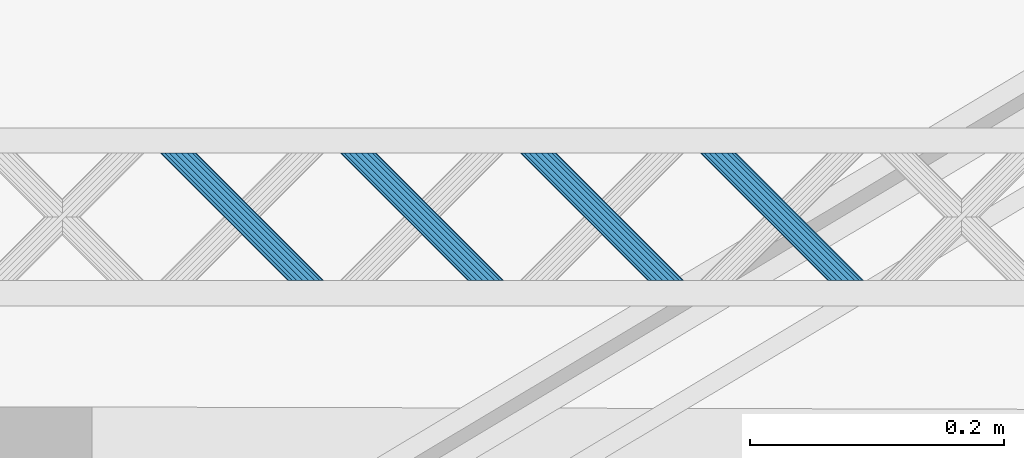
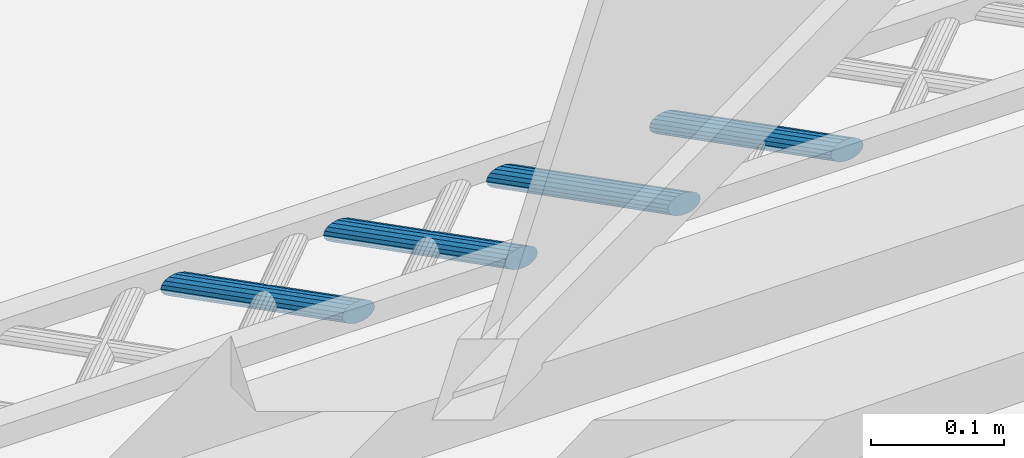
# One storey, part 63 of 133: 4 members, 1 element without a shape of its own.
"""IFC2X3 building model written with IfcOpenShell, lengths in centimetres."""

from ifc_helpers import new_model, entity, si_unit, converted_unit, direction, frame, origin, origin_with_axes, place, context, subcontext, project, spatial, faceted_brep, material, type_object, element, aggregate, save


model = new_model("IFC2X3")

# Units and contexts
model_context = context("Model", 3, precision=0.0001, world=origin(), true_north=direction((0.225632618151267, 0.974212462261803, 0.0)))
body_context = subcontext(model_context, "Body", "Model", "MODEL_VIEW")
ifc_project = project(units=[si_unit("LENGTHUNIT", "METRE", prefix="CENTI"), si_unit("AREAUNIT", "SQUARE_METRE", prefix="CENTI"), si_unit("VOLUMEUNIT", "CUBIC_METRE", prefix="CENTI"), converted_unit("PLANEANGLEUNIT", "DEGREE", entity("IfcRatioMeasure", 0.0174532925), si_unit("PLANEANGLEUNIT", "RADIAN"), dimensions=[0, 0, 0, 0, 0, 0, 0])], contexts=[model_context])

# Site, building, storey
site_placement = place(None, origin_with_axes())
site = spatial("IfcSite", under=ifc_project, at=site_placement, Name="Default Site", CompositionType="ELEMENT")
building_placement = place(site_placement, origin_with_axes())
building = spatial("IfcBuilding", under=site, at=building_placement, Name="Default Building", CompositionType="ELEMENT")
storey_placement = place(building_placement, frame((0.0, 0.0, -291.400371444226), z_axis=(0.0, 0.0, 1.0), x_axis=(1.0, 0.0, 0.0)))
storey = spatial("IfcBuildingStorey", under=building, at=storey_placement, Name="Rez-de-Jardin", CompositionType="ELEMENT", Elevation=-291.400371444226)

# Assembly, members
building_element_proxy_type = type_object("IfcBuildingElementProxyType", Name="Type Object", PredefinedType="NOTDEFINED")
assembly_placement = place(storey_placement, frame((-322.682568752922, 627.125798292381, 0.0), z_axis=(0.0, 1.0, -2.38697950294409e-15), x_axis=(1.0, 0.0, 0.0)))
assembly = element("IfcElementAssembly", 1, at=assembly_placement, inside=storey, type_object=building_element_proxy_type, Name="Panneau 92029", ObjectType="Precast panel", PredefinedType="USERDEFINED")
ifc_material = material(Name="Aluminium satiné")
member_1_placement = place(assembly_placement, frame((120.600008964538, 0.342020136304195, 1.99999995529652), z_axis=(1.16937209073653e-15, 1.43220862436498e-15, -1.0), x_axis=(-0.632448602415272, -0.774602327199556, -1.84895987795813e-15)))
member_1 = element("IfcMember", 2, at=member_1_placement, material=ifc_material, Name="4294966804", context=body_context, shape_type="Brep", body=[
    faceted_brep([(-1.11022302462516e-14, 5.55111512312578e-14, 1.40165656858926e-13), (-0.388286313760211, 5.55111512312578e-14, 1.40883582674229e-13), (-0.799164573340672, -0.150256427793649, 1.41643280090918e-13), (-1.18306811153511, -0.432635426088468, 1.42353102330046e-13), (-1.49369789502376, -0.813084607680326, 1.42927444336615e-13), (-1.69358323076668, -1.24571109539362, 1.43297024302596e-13), (-1.75861293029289, -1.67833114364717, 1.43417261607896e-13), (-1.68095640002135, -2.05878032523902, 1.43273677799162e-13), (-1.46996349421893, -2.34115037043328, 1.428835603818e-13), (-1.15109721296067, -2.49140063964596, 1.4229398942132e-13), (-0.762803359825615, -2.49139140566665, 1.41576049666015e-13), (-0.351932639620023, -2.34114421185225, 1.40816366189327e-13), (0.0319708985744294, -2.05876521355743, 1.401065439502e-13), (0.342600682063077, -1.67831603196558, 1.3953220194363e-13), (0.542486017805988, -1.24568954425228, 1.39162621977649e-13), (0.607523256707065, -0.813060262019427, 1.39042370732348e-13), (0.529859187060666, -0.432620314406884, 1.39185968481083e-13), (0.318873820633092, -0.150241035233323, 1.39576071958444e-13), (6.64335381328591, 7.5957748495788, -9.99999977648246), (6.85434671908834, 7.31340480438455, -9.99999977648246), (6.93201078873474, 6.93296485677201, -9.99999977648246), (6.86697354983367, 6.50033557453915, -9.99999977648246), (6.66708821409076, 6.06770908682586, -9.99999977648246), (6.35645843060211, 5.687259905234, -9.99999977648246), (5.97255489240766, 5.40488090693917, -9.99999977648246), (5.56168417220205, 5.25463371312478, -9.99999977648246), (5.17339031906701, 5.25462447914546, -9.99999977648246), (4.85452403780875, 5.40487474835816, -9.99999977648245), (4.64353113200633, 5.6872447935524, -9.99999977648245), (4.56587460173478, 6.06769397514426, -9.99999977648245), (4.630904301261, 6.5003140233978, -9.99999977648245), (4.83078963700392, 6.93294051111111, -9.99999977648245), (5.14141942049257, 7.31338969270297, -9.99999977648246), (5.52532295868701, 7.59576869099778, -9.99999977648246), (5.93620121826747, 7.74602511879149, -9.99999977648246), (6.32448753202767, 7.74602511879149, -9.99999977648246), (0.318873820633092, -0.150241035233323, 1.39818712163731e-13), (0.529861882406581, -0.432618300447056, 3.26468586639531e-06), (6.85434837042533, 7.31340603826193, -9.9999977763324), (6.64335754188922, 7.59577763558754, -9.99999526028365), (0.529859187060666, -0.432620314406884, 1.39471767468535e-13), (0.607521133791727, -0.813060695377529, -1.67831489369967e-06), (6.93200742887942, 6.93296417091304, -10.0000024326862), (6.85434548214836, 7.31340455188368, -10.0000007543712), (0.607523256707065, -0.813060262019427, 1.3912482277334e-13), (0.542487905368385, -1.24568982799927, 9.73995264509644e-07), (6.86697439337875, 6.50033544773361, -9.99999934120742), (6.93200974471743, 6.93296501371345, -10.0000003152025), (0.542486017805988, -1.24568954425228, 1.39471767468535e-13), (0.342600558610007, -1.67831597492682, -3.38952260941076e-08), (6.66708753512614, 6.06770940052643, -9.99999996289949), (6.86697299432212, 6.50033583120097, -9.99999992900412), (0.342600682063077, -1.67831603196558, 1.39818712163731e-13), (0.0319708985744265, -2.05876521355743, 1.40512601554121e-13), (0.0319708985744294, -2.05876521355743, 1.40512601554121e-13), (-0.351932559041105, -2.34114432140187, -3.38952261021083e-08), (5.97255533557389, 5.40488030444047, -9.99999996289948), (6.35645879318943, 5.68725941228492, -9.99999992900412), (-0.351932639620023, -2.34114421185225, 1.40859546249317e-13), (-0.762802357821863, -2.49139414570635, -1.48872510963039e-06), (5.56168553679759, 5.25462998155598, -10.0000018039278), (5.97255525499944, 5.40487991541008, -10.0000003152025), (-0.762803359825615, -2.49139140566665, 1.41900380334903e-13), (-1.15109721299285, -2.49139703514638, 2.79203354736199e-06), (5.1733903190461, 5.25462682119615, -9.99999796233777), (5.56168417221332, 5.25463245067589, -10.0000007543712), (-1.15109721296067, -2.49140063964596, 1.42594269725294e-13), (-1.46996459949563, -2.34115271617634, -2.51604859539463e-06), (4.85452237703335, 5.40487122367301, -10.0000035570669), (5.17338976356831, 5.25462330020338, -10.0000010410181), (-1.46996349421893, -2.34115037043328, 1.43288159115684e-13), (-1.68095432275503, -2.05877877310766, 2.51604888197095e-06), (4.64353216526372, 5.68724556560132, -9.99999852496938), (4.85452299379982, 5.40487396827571, -10.0000010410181), (-1.68095640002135, -2.05878032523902, 1.43288159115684e-13), (-1.75861646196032, -1.67833186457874, -2.79203326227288e-06), (4.56586983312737, 6.06769300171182, -10.0000035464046), (4.64352989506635, 5.68724454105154, -10.0000007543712), (-1.75861293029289, -1.67833114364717, 1.43982048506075e-13), (-1.69358034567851, -1.24571152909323, 1.48872540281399e-06), (4.63090614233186, 6.50031374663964, -9.99999882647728), (4.56587355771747, 6.0676941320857, -10.0000003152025), (-1.69358323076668, -1.24571109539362, 1.4363510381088e-13), (-1.4936977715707, -0.81308466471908, 3.38955068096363e-08), (4.83078920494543, 6.93294071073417, -9.99999989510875), (4.63090374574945, 6.50031428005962, -9.99999992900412), (-1.49369789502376, -0.813084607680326, 1.43288159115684e-13), (-1.18306811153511, -0.43263542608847, 1.42594269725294e-13), (5.14141942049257, 7.31338969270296, -9.99999977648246), (-1.18306811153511, -0.432635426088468, 1.42594269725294e-13), (-0.799164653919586, -0.150256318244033, 3.38955076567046e-08), (5.52532324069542, 7.59576830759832, -9.99999989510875), (5.14141978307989, 7.31338919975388, -9.99999992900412), (-0.799164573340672, -0.150256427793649, 1.42247325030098e-13), (-0.388285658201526, -1.79266470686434e-06, -9.7399498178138e-07), (5.93620223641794, 7.74602233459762, -10.0000012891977), (5.52532332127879, 7.59576769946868, -10.0000003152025), (-0.388286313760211, 5.55111512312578e-14, 1.41206490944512e-13), (-1.93558739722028e-11, 2.16669541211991e-06, 1.67831517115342e-06), (6.32448753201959, 7.74602602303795, -9.99999907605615), (5.93620121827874, 7.7460238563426, -10.0000007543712), (0.318872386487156, -0.150244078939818, -3.26468558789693e-06), (6.64335436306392, 7.59577601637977, -9.99999852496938), (6.32448697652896, 7.7460239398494, -10.0000010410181)], [[[0, 1, 2, 3, 4, 5, 6, 7, 8, 9, 10, 11, 12, 13, 14, 15, 16, 17]], [[18, 19, 20, 21, 22, 23, 24, 25, 26, 27, 28, 29, 30, 31, 32, 33, 34, 35]], [[36, 37, 38, 39]], [[40, 41, 42, 43]], [[44, 45, 46, 47]], [[48, 49, 50, 51]], [[52, 53, 23, 22]], [[54, 55, 56, 57]], [[58, 59, 60, 61]], [[62, 63, 64, 65]], [[66, 67, 68, 69]], [[70, 71, 72, 73]], [[74, 75, 76, 77]], [[78, 79, 80, 81]], [[82, 83, 84, 85]], [[86, 87, 88, 31]], [[89, 90, 91, 92]], [[93, 94, 95, 96]], [[97, 98, 99, 100]], [[0, 101, 102, 103]]]),
])
member_2_placement = place(assembly_placement, frame((106.45786523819, 0.342020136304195, 1.99999995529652), z_axis=(1.16938344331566e-15, 1.43215300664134e-15, -1.0), x_axis=(-0.632467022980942, -0.774587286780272, -1.84892397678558e-15)))
member_2 = element("IfcMember", 3, at=member_2_placement, material=ifc_material, Name="4294966803", context=body_context, shape_type="Brep", body=[
    faceted_brep([(-2.22044604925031e-14, 4.44089209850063e-14, 2.14064876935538e-13), (-0.388293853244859, 3.33066907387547e-14, 2.14782802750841e-13), (-0.79916814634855, -0.150237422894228, 2.15542478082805e-13), (-1.18307839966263, -0.432607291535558, 2.16252298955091e-13), (-1.49371723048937, -0.813049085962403, 2.16826646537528e-13), (-1.69361285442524, -1.24567082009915, 2.17196238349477e-13), (-1.75866038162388, -1.67829855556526, 2.17316506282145e-13), (-1.68100535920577, -2.05874034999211, 2.17172928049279e-13), (-1.47002670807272, -2.34112464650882, 2.16782844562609e-13), (-1.15115646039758, -2.49137326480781, 2.16193277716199e-13), (-0.762870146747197, -2.49138249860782, 2.15475365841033e-13), (-0.351988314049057, -2.34113584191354, 2.14715676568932e-13), (0.0319219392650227, -2.05876597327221, 2.14005855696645e-13), (0.34256077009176, -1.67832417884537, 2.13431508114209e-13), (0.542456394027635, -1.24570244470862, 2.1306191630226e-13), (0.607496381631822, -0.813083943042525, 2.12941662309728e-13), (0.529848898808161, -0.432632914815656, 2.13085226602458e-13), (0.318862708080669, -0.150257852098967, 2.13475324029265e-13), (6.64353444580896, 7.59561686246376, -9.99999977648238), (6.85451686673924, 7.31323718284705, -9.99999977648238), (6.93216811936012, 6.9327907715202, -9.99999977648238), (6.86712436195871, 6.5001676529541, -9.99999977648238), (6.66722873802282, 6.06754591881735, -9.99999977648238), (6.3565899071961, 5.68710412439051, -9.99999977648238), (5.97267965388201, 5.40473425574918, -9.99999977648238), (5.5618015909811, 5.25449221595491, -9.99999977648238), (5.17351150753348, 5.2544968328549, -9.99999977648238), (4.85464502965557, 5.40475006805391, -9.99999977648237), (4.6436626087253, 5.68712974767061, -9.99999977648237), (4.56601135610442, 6.06757615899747, -9.99999977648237), (4.63105511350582, 6.50019927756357, -9.99999977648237), (4.83095073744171, 6.93282101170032, -9.99999977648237), (5.14158956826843, 7.31326280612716, -9.99999977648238), (5.52549982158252, 7.59563267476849, -9.99999977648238), (5.93637788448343, 7.74587471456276, -9.99999977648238), (6.32466796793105, 7.74587009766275, -9.99999977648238), (0.318862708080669, -0.150257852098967, 2.13717932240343e-13), (0.52984682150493, -0.432634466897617, -2.5160485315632e-06), (6.85451613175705, 7.31323663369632, -10.0000006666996), (6.64353340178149, 7.59561608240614, -10.000001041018), (0.529848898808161, -0.432632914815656, 2.13370987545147e-13), (0.607499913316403, -0.813083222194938, 2.79203362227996e-06), (6.93217041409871, 6.93279123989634, -9.99999796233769), (6.85451845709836, 7.3132375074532, -9.99999851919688), (0.607496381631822, -0.813083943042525, 2.13024042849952e-13), (0.542453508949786, -1.2457020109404, -1.48872503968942e-06), (6.86712281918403, 6.50016788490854, -10.0000005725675), (6.93216707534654, 6.93279092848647, -10.0000003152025), (0.542456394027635, -1.24570244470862, 2.13024042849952e-13), (0.342560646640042, -1.67832412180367, -3.38951539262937e-08), (6.6672293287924, 6.06754564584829, -9.99999961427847), (6.86712507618, 6.50016732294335, -9.9999995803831), (0.34256077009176, -1.67832417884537, 2.13370987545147e-13), (0.0319219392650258, -2.05876597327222, 2.14064876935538e-13), (6.3565899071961, 5.6871041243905, -9.99999977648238), (6.66722873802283, 6.06754591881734, -9.99999977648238), (0.0319219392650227, -2.05876597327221, 2.14064876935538e-13), (-0.351988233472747, -2.34113595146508, -3.38951508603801e-08), (5.97267926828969, 5.4047347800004, -9.99999961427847), (6.35658944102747, 5.68710475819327, -9.9999995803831), (-0.351988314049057, -2.34113584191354, 2.14758766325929e-13), (-0.762870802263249, -2.49138070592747, 9.73995336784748e-07), (5.56180129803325, 5.25449301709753, -9.99999934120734), (5.97267918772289, 5.40473553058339, -9.99999908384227), (-0.762870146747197, -2.49138249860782, 2.15452655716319e-13), (-1.15115646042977, -2.49137543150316, -1.6783148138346e-06), (5.17351150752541, 5.25449628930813, -10.0000001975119), (5.56180159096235, 5.25449095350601, -10.0000007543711), (-1.15115646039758, -2.49137326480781, 2.16493489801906e-13), (-1.4700252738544, -2.34112160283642, 3.26468595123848e-06), (4.85464590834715, 5.40475193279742, -9.99999777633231), (5.17351222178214, 5.25449834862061, -9.9999981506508), (-1.47002670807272, -2.34112464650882, 2.16840434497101e-13), (-1.68100805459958, -2.05874236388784, -3.26468551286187e-06), (4.64366125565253, 5.6871287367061, -10.0000014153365), (4.85464398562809, 5.40474928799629, -10.000001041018), (-1.68100535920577, -2.05874034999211, 2.17187379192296e-13), (-1.75865825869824, -1.67829812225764, 1.67831524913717e-06), (4.56601224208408, 6.06757633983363, -9.99999907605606), (4.64366419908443, 5.68713007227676, -9.99999851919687), (-1.75866038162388, -1.67829855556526, 2.17534323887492e-13), (-1.69361474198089, -1.24567053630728, -9.7399490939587e-07), (4.63105456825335, 6.50019935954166, -10.0000000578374), (4.56601031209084, 6.06757631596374, -10.0000003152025), (-1.69361285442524, -1.24567082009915, 2.17534323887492e-13), (-1.49371710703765, -0.8130491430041, 3.38955841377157e-08), (4.83095157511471, 6.93282062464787, -9.99999954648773), (4.63105582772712, 6.50019894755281, -9.99999958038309), (-1.49371723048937, -0.813049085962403, 2.16840434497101e-13), (-1.18307839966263, -0.432607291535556, 2.1614654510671e-13), (5.14158956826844, 7.31326280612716, -9.99999977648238), (-1.18307839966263, -0.432607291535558, 2.1614654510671e-13), (-0.79916822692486, -0.150237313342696, 3.38955813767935e-08), (5.52549927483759, 7.59563341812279, -9.99999954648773), (5.14158910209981, 7.31326343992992, -9.9999995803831), (-0.79916814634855, -0.150237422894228, 2.15799600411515e-13), (-0.388294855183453, 2.74006356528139e-06, 1.48872547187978e-06), (5.93637724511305, 7.74587646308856, -9.99999882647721), (5.52549935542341, 7.59563394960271, -9.99999908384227), (-0.388293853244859, 3.33066907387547e-14, 2.15105711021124e-13), (-5.35586373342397e-11, -3.60449954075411e-06, -2.79203319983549e-06), (6.32466796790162, 7.74586811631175, -10.0000013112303), (5.93637788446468, 7.74587345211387, -10.0000007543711), (0.318863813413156, -0.150255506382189, 2.51604895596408e-06), (6.64353499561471, 7.59561802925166, -9.99999852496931), (6.32466868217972, 7.74587161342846, -9.99999815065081)], [[[0, 1, 2, 3, 4, 5, 6, 7, 8, 9, 10, 11, 12, 13, 14, 15, 16, 17]], [[18, 19, 20, 21, 22, 23, 24, 25, 26, 27, 28, 29, 30, 31, 32, 33, 34, 35]], [[36, 37, 38, 39]], [[40, 41, 42, 43]], [[44, 45, 46, 47]], [[48, 49, 50, 51]], [[52, 53, 54, 55]], [[56, 57, 58, 59]], [[60, 61, 62, 63]], [[64, 65, 66, 67]], [[68, 69, 70, 71]], [[72, 73, 74, 75]], [[76, 77, 78, 79]], [[80, 81, 82, 83]], [[84, 85, 86, 87]], [[88, 89, 90, 31]], [[91, 92, 93, 94]], [[95, 96, 97, 98]], [[99, 100, 101, 102]], [[0, 103, 104, 105]]]),
])
member_3_placement = place(assembly_placement, frame((92.3157334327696, 0.342020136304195, 1.99999995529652), z_axis=(1.16937776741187e-15, 1.43218081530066e-15, -1.0), x_axis=(-0.632457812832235, -0.774594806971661, -1.84894192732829e-15)))
member_3 = element("IfcMember", 4, at=member_3_placement, material=ifc_material, Name="4294966802", context=body_context, shape_type="Brep", body=[
    faceted_brep([(-3.33066907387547e-14, 6.66133814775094e-14, 1.07205910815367e-13), (-0.388290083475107, 7.7715611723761e-14, 1.0792383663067e-13), (-0.799166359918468, -0.150246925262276, 1.0868352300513e-13), (-1.18307325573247, -0.432621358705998, 1.09393344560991e-13), (-1.49370756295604, -0.813066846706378, 1.09967689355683e-13), (-1.6935980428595, -1.24569095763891, 1.10337275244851e-13), (-1.75863665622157, -1.67831484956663, 1.10457527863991e-13), (-1.68098087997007, -2.05876033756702, 1.1031394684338e-13), (-1.46999510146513, -2.34113750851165, 1.09923846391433e-13), (-1.15112683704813, -2.49138695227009, 1.09334277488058e-13), (-0.76283675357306, -2.4913869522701, 1.08616351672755e-13), (-0.351960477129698, -2.34114002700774, 1.07856665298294e-13), (0.0319464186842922, -2.05876559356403, 1.07146843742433e-13), (0.342580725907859, -1.67832010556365, 1.06572498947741e-13), (0.542471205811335, -1.2456959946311, 1.06202913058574e-13), (0.607509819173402, -0.813072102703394, 1.06082660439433e-13), (0.529854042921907, -0.432626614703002, 1.06226241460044e-13), (0.318868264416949, -0.150249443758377, 1.06616341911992e-13), (6.64344413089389, 7.59569585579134, -9.99999977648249), (6.85442990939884, 7.31331868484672, -9.99999977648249), (6.93208945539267, 6.93287781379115, -9.99999977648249), (6.86704707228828, 6.5002493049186, -9.99999977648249), (6.6671565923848, 6.06762519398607, -9.99999977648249), (6.35652605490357, 5.68718432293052, -9.99999977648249), (5.97261915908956, 5.40480988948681, -9.99999977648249), (5.5617428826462, 5.25456296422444, -9.99999977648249), (5.17345279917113, 5.25456296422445, -9.99999977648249), (4.85458453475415, 5.4048124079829, -9.99999977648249), (4.64359875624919, 5.68718957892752, -9.99999977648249), (4.5659429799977, 6.06763506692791, -9.99999977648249), (4.63098159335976, 6.50025895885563, -9.99999977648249), (4.83087207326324, 6.93288306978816, -9.99999977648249), (5.14150261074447, 7.31332394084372, -9.99999977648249), (5.52540950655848, 7.59569837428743, -9.99999977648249), (5.93628955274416, 7.74594991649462, -9.99999977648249), (6.3245758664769, 7.74594529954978, -9.99999977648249), (0.318868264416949, -0.150249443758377, 1.06858966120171e-13), (0.52985435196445, -0.432626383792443, 3.74318597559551e-07), (6.8544315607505, 7.31331991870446, -9.99999777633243), (6.64344547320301, 7.59569685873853, -9.99999815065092), (0.529854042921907, -0.432626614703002, 1.06512021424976e-13), (0.607510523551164, -0.813071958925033, 5.56859296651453e-07), (6.93208892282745, 6.93287770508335, -10.000000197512), (6.85443149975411, 7.31331900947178, -9.99999851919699), (0.607509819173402, -0.813072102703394, 1.06165076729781e-13), (0.542470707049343, -1.24569591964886, -2.57364957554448e-07), (6.86704791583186, 6.50024917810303, -9.99999934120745), (6.93208841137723, 6.932877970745, -10.0000003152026), (0.542471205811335, -1.2456959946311, 1.06165076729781e-13), (0.342580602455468, -1.67832004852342, -3.38952590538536e-08), (6.66715718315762, 6.06762492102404, -9.99999961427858), (6.86704778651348, 6.50024897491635, -9.99999958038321), (0.342580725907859, -1.67832010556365, 1.06858966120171e-13), (0.0319464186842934, -2.05876559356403, 1.07205910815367e-13), (6.35652605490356, 5.68718432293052, -9.99999977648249), (6.6671565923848, 6.06762519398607, -9.99999977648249), (0.0319464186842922, -2.05876559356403, 1.07205910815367e-13), (-0.351960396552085, -2.34114013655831, -3.38952580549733e-08), (5.97261960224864, 5.40480928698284, -9.99999996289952), (6.35652641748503, 5.68718382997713, -9.99999992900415), (-0.351960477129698, -2.34114002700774, 1.07899800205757e-13), (-0.762836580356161, -2.49138742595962, -2.57364951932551e-07), (5.5617434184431, 5.25456149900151, -10.0000005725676), (5.97261952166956, 5.40480889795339, -10.0000003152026), (-0.76283675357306, -2.4913869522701, 1.08593689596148e-13), (-1.151126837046, -2.49138623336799, 5.56859292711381e-07), (5.17345279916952, 5.25456242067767, -10.000000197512), (5.56174288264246, 5.25456170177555, -10.0000007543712), (-1.15112683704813, -2.49138695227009, 1.09634523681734e-13), (-1.46999493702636, -2.34113715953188, 3.74318606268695e-07), (4.85458414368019, 5.40481157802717, -10.0000006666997), (5.17345224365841, 5.25456178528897, -10.0000010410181), (-1.46999510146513, -2.34113750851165, 1.0998146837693e-13), (-1.68098118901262, -2.05876056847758, -3.74318384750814e-07), (4.64359740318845, 5.68718856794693, -10.0000014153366), (4.85458349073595, 5.40481162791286, -10.0000010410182), (-1.68098087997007, -2.05876033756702, 1.10328413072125e-13), (-1.75863736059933, -1.67831499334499, -5.56859079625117e-07), (4.56594103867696, 6.06763467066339, -10.0000013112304), (4.64359751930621, 5.68718932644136, -10.0000007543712), (-1.75863665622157, -1.67831484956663, 1.1067535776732e-13), (-1.69359754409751, -1.24569103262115, 2.57365175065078e-07), (4.63098104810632, 6.50025904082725, -10.0000000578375), (4.56594193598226, 6.06763522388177, -10.0000003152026), (-1.6935980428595, -1.24569095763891, 1.1067535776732e-13), (-1.49370743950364, -0.813066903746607, 3.38954771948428e-08), (4.83087164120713, 6.93288326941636, -9.99999989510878), (4.63098103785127, 6.50025921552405, -9.99999992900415), (-1.49370756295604, -0.813066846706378, 1.0998146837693e-13), (-1.18307325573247, -0.432621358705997, 1.09634523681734e-13), (4.83087207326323, 6.93288306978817, -9.99999977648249), (-1.18307325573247, -0.432621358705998, 1.09634523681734e-13), (-0.799166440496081, -0.150246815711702, 3.3895474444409e-08), (5.52540895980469, 7.59569911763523, -9.99999954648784), (5.14150214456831, 7.31332457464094, -9.99999958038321), (-0.799166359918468, -0.150246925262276, 1.08940634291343e-13), (-0.388290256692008, 4.73689604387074e-07, 2.57365173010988e-07), (5.93628974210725, 7.74594939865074, -10.0000000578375), (5.5254090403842, 7.59569964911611, -9.99999908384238), (-0.388290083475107, 7.7715611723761e-14, 1.08246744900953e-13), (-2.16293201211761e-12, -7.18902037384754e-07, -5.56859076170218e-07), (6.32457586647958, 7.74594620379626, -9.99999907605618), (5.93628955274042, 7.74594865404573, -10.0000007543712), (0.318868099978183, -0.150249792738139, -3.74318387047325e-07), (6.64344468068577, 7.59569702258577, -9.99999852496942), (6.32457658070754, 7.74594681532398, -9.99999815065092)], [[[0, 1, 2, 3, 4, 5, 6, 7, 8, 9, 10, 11, 12, 13, 14, 15, 16, 17]], [[18, 19, 20, 21, 22, 23, 24, 25, 26, 27, 28, 29, 30, 31, 32, 33, 34, 35]], [[36, 37, 38, 39]], [[40, 41, 42, 43]], [[44, 45, 46, 47]], [[48, 49, 50, 51]], [[52, 53, 54, 55]], [[56, 57, 58, 59]], [[60, 61, 62, 63]], [[64, 65, 66, 67]], [[68, 69, 70, 71]], [[72, 73, 74, 75]], [[76, 77, 78, 79]], [[80, 81, 82, 83]], [[84, 85, 86, 87]], [[88, 89, 32, 90]], [[91, 92, 93, 94]], [[95, 96, 97, 98]], [[99, 100, 101, 102]], [[0, 103, 104, 105]]]),
])
member_4_placement = place(assembly_placement, frame((78.1736016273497, 0.342020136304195, 1.99999995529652), z_axis=(1.16937209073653e-15, 1.43220862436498e-15, -1.0), x_axis=(-0.632448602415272, -0.774602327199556, -1.84895987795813e-15)))
member_4 = element("IfcMember", 5, at=member_4_placement, material=ifc_material, Name="4294966801", context=body_context, shape_type="Brep", body=[
    faceted_brep([(-1.66533453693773e-14, 5.55111512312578e-14, 9.05525654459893e-14), (-0.3882863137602, 5.55111512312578e-14, 9.12704912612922e-14), (-0.79916457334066, -0.150256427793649, 9.20301886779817e-14), (-1.1830681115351, -0.432635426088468, 9.27400109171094e-14), (-1.49369412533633, -0.813079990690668, 9.33143459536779e-14), (-1.69357946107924, -1.24570647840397, 9.36839259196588e-14), (-1.75861293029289, -1.67833114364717, 9.38041701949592e-14), (-1.68095263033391, -2.05877570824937, 9.36605794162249e-14), (-1.46996349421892, -2.34115037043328, 9.32704689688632e-14), (-1.15109344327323, -2.49139602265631, 9.26808910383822e-14), (-0.762803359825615, -2.49139140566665, 9.19629582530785e-14), (-0.351928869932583, -2.34113959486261, 9.12032678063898e-14), (0.0319746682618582, -2.05876059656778, 9.04934455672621e-14), (0.342600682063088, -1.67831603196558, 8.99191105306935e-14), (0.542486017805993, -1.24568954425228, 8.95495305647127e-14), (0.607523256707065, -0.813060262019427, 8.94292793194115e-14), (0.529859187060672, -0.432620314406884, 8.95728770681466e-14), (0.318870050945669, -0.15024565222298, 8.99629875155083e-14), (6.64335758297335, 7.59577946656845, -9.99999977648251), (6.85434671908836, 7.31340480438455, -9.99999977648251), (6.93200701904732, 6.93296023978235, -9.99999977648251), (6.86697354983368, 6.50033557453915, -9.99999977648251), (6.66708821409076, 6.06770908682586, -9.99999977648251), (6.35645843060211, 5.687259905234, -9.99999977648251), (5.97255489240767, 5.40488090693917, -9.99999977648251), (5.56168040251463, 5.25462909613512, -9.99999977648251), (5.17339031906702, 5.25462447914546, -9.99999977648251), (4.85452403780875, 5.40487474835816, -9.9999997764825), (4.64353113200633, 5.6872447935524, -9.9999997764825), (4.56587083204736, 6.0676893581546, -9.9999997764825), (4.63090430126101, 6.5003140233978, -9.9999997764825), (4.83078963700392, 6.93294051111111, -9.9999997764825), (5.14141942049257, 7.31338969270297, -9.99999977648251), (5.52532295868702, 7.59576869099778, -9.99999977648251), (5.93619744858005, 7.74602050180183, -9.99999977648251), (6.32448753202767, 7.74602511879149, -9.99999977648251), (0.318870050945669, -0.15024565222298, 9.0205620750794e-14), (0.529859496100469, -0.43262008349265, 3.74318580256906e-07), (6.85434598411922, 7.31340425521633, -10.0000006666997), (6.64335653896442, 7.595778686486, -10.0000010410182), (0.529859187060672, -0.432620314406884, 8.98586760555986e-14), (0.60752113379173, -0.813060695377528, -1.67831494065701e-06), (6.93200648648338, 6.93296013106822, -10.000000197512), (6.85434548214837, 7.31340455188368, -10.0000007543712), (0.607523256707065, -0.813060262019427, 8.95117313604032e-14), (0.542487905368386, -1.24568982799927, 9.73995212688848e-07), (6.86697439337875, 6.50033544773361, -9.99999934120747), (6.93200836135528, 6.93296003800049, -9.9999990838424), (0.542486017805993, -1.24568954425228, 8.98586760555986e-14), (0.342600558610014, -1.67831597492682, -3.38952768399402e-08), (6.66708753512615, 6.06770940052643, -9.99999996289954), (6.86697299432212, 6.50033583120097, -9.99999992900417), (0.342600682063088, -1.67831603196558, 9.0205620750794e-14), (0.0319746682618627, -2.05876059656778, 9.08995101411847e-14), (6.66708821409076, 6.06770908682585, -9.99999977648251), (0.0319746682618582, -2.05876059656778, 9.08995101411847e-14), (-0.351928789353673, -2.34113970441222, -3.3895272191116e-08), (5.97255450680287, 5.40488143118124, -9.99999961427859), (6.3564579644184, 5.68726053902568, -9.99999958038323), (-0.351928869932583, -2.34113959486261, 9.12464548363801e-14), (-0.762803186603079, -2.49139187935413, -2.57364974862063e-07), (5.56168010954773, 5.25462989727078, -9.99999934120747), (5.97255442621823, 5.4048821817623, -9.9999990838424), (-0.762803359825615, -2.49139140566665, 9.22872889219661e-14), (-1.15109344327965, -2.4913953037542, 5.56859282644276e-07), (5.17339031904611, 5.25462682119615, -9.99999796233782), (5.56168040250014, 5.2546307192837, -9.99999851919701), (-1.15109344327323, -2.49139602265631, 9.29811783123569e-14), (-1.4699633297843, -2.34115002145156, 3.74318587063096e-07), (4.85452364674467, 5.40487391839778, -10.0000006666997), (5.17339103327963, 5.25462599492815, -9.99999815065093), (-1.46996349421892, -2.34115037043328, 9.36750677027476e-14), (-1.68095293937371, -2.05877593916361, -3.7431840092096e-07), (4.64353216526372, 5.68724556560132, -9.99999852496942), (4.85452299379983, 5.40487396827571, -10.0000010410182), (-1.68095263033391, -2.05877570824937, 9.36750677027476e-14), (-1.75861363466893, -1.67833128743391, -5.56859087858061e-07), (4.56587171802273, 6.06768953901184, -9.99999907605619), (4.64353272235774, 5.68724511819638, -9.999998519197), (-1.75861293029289, -1.67833114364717, 9.43689570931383e-14), (-1.69357896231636, -1.24570655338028, 2.57365158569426e-07), (4.63090614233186, 6.50031374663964, -9.99999882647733), (4.56587217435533, 6.06768915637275, -9.9999990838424), (-1.69357946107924, -1.24570647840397, 9.40220123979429e-14), (-1.49369400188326, -0.813080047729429, 3.38954605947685e-08), (4.83079047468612, 6.93294012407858, -9.99999954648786), (4.63090501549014, 6.50031369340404, -9.99999958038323), (-1.49369412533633, -0.813079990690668, 9.36750677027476e-14), (-1.18306811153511, -0.432635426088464, 9.29811783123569e-14), (-1.1830681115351, -0.432635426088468, 9.29811783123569e-14), (-0.799164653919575, -0.150256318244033, 3.38954580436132e-08), (5.52532324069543, 7.59576830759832, -9.9999998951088), (5.1414197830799, 7.31338919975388, -9.99999992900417), (-0.79916457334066, -0.150256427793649, 9.26342336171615e-14), (-0.388285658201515, -1.79266470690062e-06, -9.73995031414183e-07), (5.9361976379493, 7.7460199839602, -10.0000000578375), (5.5253233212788, 7.59576769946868, -10.0000003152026), (-0.3882863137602, 5.55111512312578e-14, 9.15933995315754e-14), (-1.93614250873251e-11, 2.16669541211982e-06, 1.67831512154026e-06), (6.32448753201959, 7.74602602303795, -9.9999990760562), (5.93619744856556, 7.74602212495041, -9.99999851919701), (0.318869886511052, -0.150246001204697, -3.74318403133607e-07), (6.64335686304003, 7.59577793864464, -10.0000014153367), (6.32448697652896, 7.7460239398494, -10.0000010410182)], [[[0, 1, 2, 3, 4, 5, 6, 7, 8, 9, 10, 11, 12, 13, 14, 15, 16, 17]], [[18, 19, 20, 21, 22, 23, 24, 25, 26, 27, 28, 29, 30, 31, 32, 33, 34, 35]], [[36, 37, 38, 39]], [[40, 41, 42, 43]], [[44, 45, 46, 47]], [[48, 49, 50, 51]], [[52, 53, 23, 54]], [[55, 56, 57, 58]], [[59, 60, 61, 62]], [[63, 64, 65, 66]], [[67, 68, 69, 70]], [[71, 72, 73, 74]], [[75, 76, 77, 78]], [[79, 80, 81, 82]], [[83, 84, 85, 86]], [[87, 88, 32, 31]], [[89, 90, 91, 92]], [[93, 94, 95, 96]], [[97, 98, 99, 100]], [[0, 101, 102, 103]]]),
])
aggregate(assembly, [member_1, member_2, member_3, member_4])

save(model, "model.ifc")
